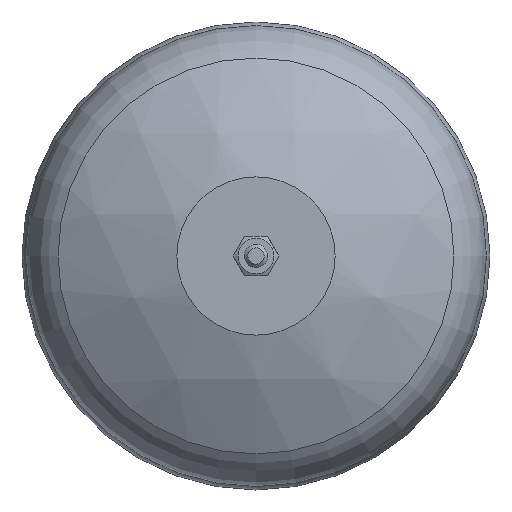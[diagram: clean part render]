
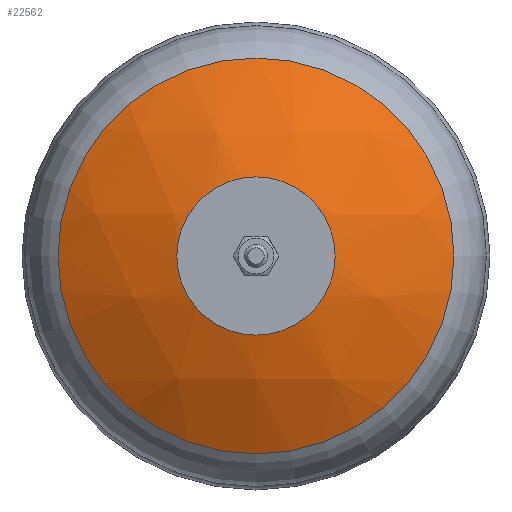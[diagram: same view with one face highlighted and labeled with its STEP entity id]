
A CAD part, front view. The second image highlights one B-rep face of the part: STEP entity #22562.
In plain terms, the highlighted spherical face has radius 159 mm.
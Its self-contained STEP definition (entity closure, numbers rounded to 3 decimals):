
#38=SPHERICAL_SURFACE('',#24249,159.);
#4918=FACE_BOUND('',#7530,.T.);
#6159=FACE_OUTER_BOUND('',#7529,.T.);
#7529=EDGE_LOOP('',(#21135));
#7530=EDGE_LOOP('',(#21136));
#8007=CIRCLE('',#24248,85.047);
#8008=CIRCLE('',#24250,34.);
#11116=VERTEX_POINT('',#48467);
#11117=VERTEX_POINT('',#48470);
#14471=EDGE_CURVE('',#11116,#11116,#8007,.T.);
#14472=EDGE_CURVE('',#11117,#11117,#8008,.T.);
#21135=ORIENTED_EDGE('',*,*,#14471,.T.);
#21136=ORIENTED_EDGE('',*,*,#14472,.F.);
#22562=ADVANCED_FACE('',(#6159,#4918),#38,.T.);
#24248=AXIS2_PLACEMENT_3D('',#48468,#29217,#29218);
#24249=AXIS2_PLACEMENT_3D('',#48469,#29219,#29220);
#24250=AXIS2_PLACEMENT_3D('',#48471,#29221,#29222);
#29217=DIRECTION('center_axis',(0.,-1.,0.));
#29218=DIRECTION('ref_axis',(1.,0.,0.));
#29219=DIRECTION('center_axis',(0.,0.,
1.));
#29220=DIRECTION('ref_axis',(-1.,0.,0.));
#29221=DIRECTION('center_axis',(0.,-1.,0.));
#29222=DIRECTION('ref_axis',(1.,0.,0.));
#48467=CARTESIAN_POINT('',(85.047,-143.021,0.));
#48468=CARTESIAN_POINT('Origin',(0.,-143.021,
0.));
#48469=CARTESIAN_POINT('Origin',(0.,-8.678,
0.));
#48470=CARTESIAN_POINT('',(34.,-164.,0.));
#48471=CARTESIAN_POINT('Origin',(0.,-164.,0.));
